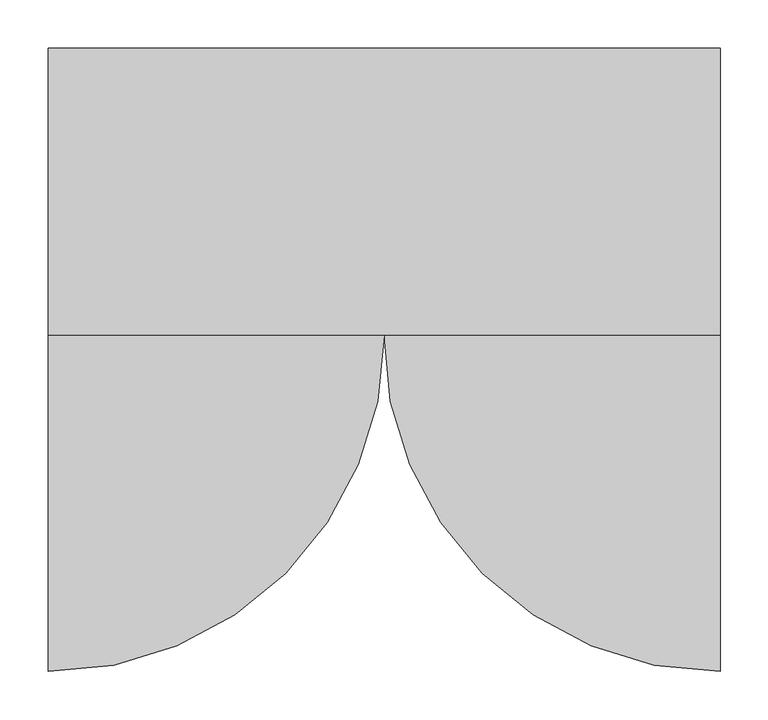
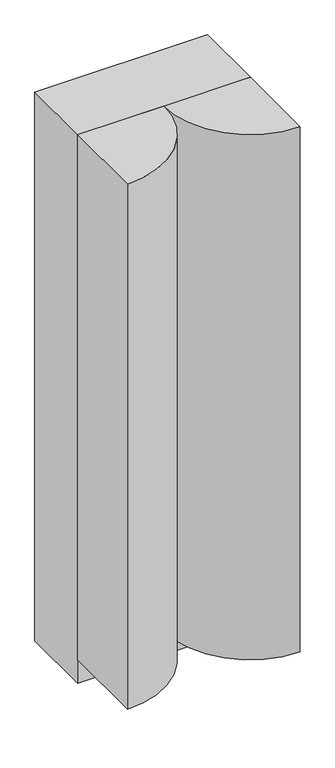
"""IFC4 building model written with IfcOpenShell, lengths in millimetres: electric distribution board geometry, 43300_機械設備盤 : EV制御盤."""

from ifc_helpers import new_model, si_unit, point, frame, frame_2d, origin, origin_with_axes, place, context, project, spatial, polyline, circle_curve, trimmed, segment, composite_curve, outline, extrude, source, transform, mapped, element, save


def electric_distribution_board_1ec212f5(model_context):
    return source(origin(), model_context, "Body", "SweptSolid", [
        extrude(outline(composite_curve([segment(polyline([(-350.0, -700.0), (-350.0, -350.0), (0.0, -350.0)]), True, "CONTINUOUS"), segment(trimmed(circle_curve(frame_2d((-350.0, -350.0)), 350.0), [point((0.0, -350.0))], [point((-350.0, -700.0))], False, "CARTESIAN"), True, "CONTINUOUS")], self_intersect=False)), frame((0.0, 0.0, 100.0), z_axis=(0.0, 0.0, 1.0), x_axis=(1.0, 0.0, 0.0)), (0.0, 0.0, 1.0), 2250.0),
        extrude(outline(composite_curve([segment(trimmed(circle_curve(frame_2d((350.0, -350.0)), 350.0), [point((350.0, -700.0))], [point((0.0, -350.0))], False, "CARTESIAN"), True, "CONTINUOUS"), segment(polyline([(0.0, -350.0), (350.0, -350.0), (350.0, -700.0)]), True, "CONTINUOUS")], self_intersect=False)), frame((0.0, 0.0, 100.0), z_axis=(0.0, 0.0, 1.0), x_axis=(1.0, 0.0, 0.0)), (0.0, 0.0, 1.0), 2250.0),
        extrude(outline(polyline([(350.0, -350.0), (-350.0, -350.0), (-350.0, -50.0), (350.0, -50.0), (350.0, -350.0)])), origin_with_axes(), (0.0, 0.0, 1.0), 2350.0),
    ])


if __name__ == "__main__":
    model = new_model("IFC4")
    model_context = context("Model", 3, world=origin())
    ifc_project = project(units=[si_unit("LENGTHUNIT", "METRE", prefix="MILLI")], contexts=[model_context])
    site = spatial("IfcSite", under=ifc_project)
    building = spatial("IfcBuilding", under=site)
    placement = place(None, origin())
    electric_distribution_board_shape = electric_distribution_board_1ec212f5(model_context)
    element("IfcElectricDistributionBoard", 1, ObjectType="43300_機械設備盤 : EV制御盤", at=placement, inside=building, context=model_context, shape_type="MappedRepresentation", body=[
        mapped(electric_distribution_board_shape, transform((0.0, 0.0, 0.0), x_axis=(1.0, 0.0, 0.0), y_axis=(0.0, 1.0, 0.0), z_axis=(0.0, 0.0, 1.0))),
    ])
    save(model, "model.ifc")
